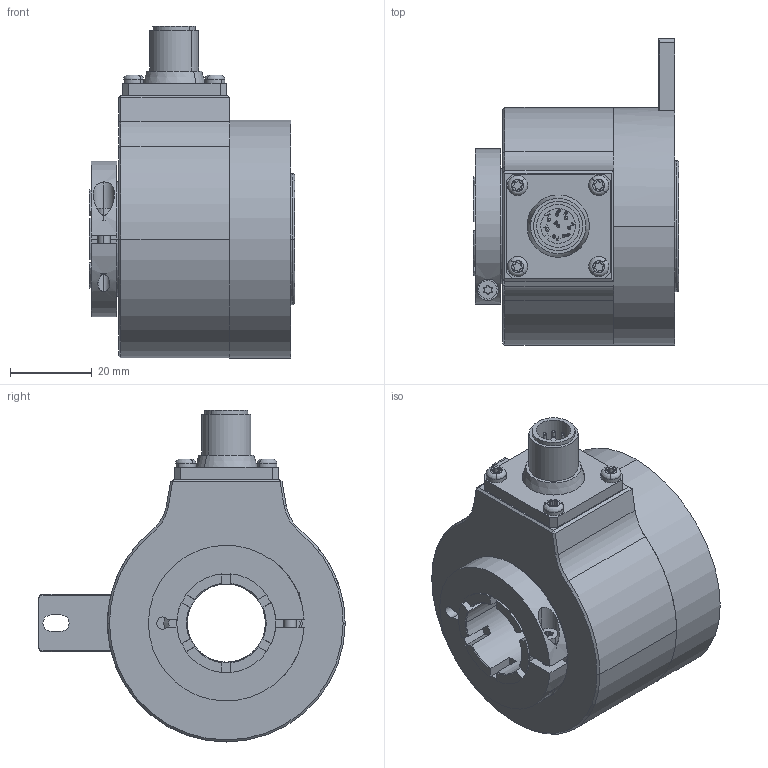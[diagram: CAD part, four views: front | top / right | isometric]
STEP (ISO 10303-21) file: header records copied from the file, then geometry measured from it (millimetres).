
FILE_DESCRIPTION (( 'STEP AP203' ), '1' );
FILE_NAME ('K58I.OXX.XXXXX.XC1755A.XXRC5.step', '2025-12-03T08:06:17', ( '' ), ( '' ), 'SwSTEP 2.0', 'SolidWorks 2021', '' );
FILE_SCHEMA (( 'CONFIG_CONTROL_DESIGN' ));
Length unit declared in the file: millimetre
Products named in the file (1): K58I.OXX.XXXXX.XC1755A.XXRC5
Bounding box: 50.1 x 74.75 x 81 mm (x, y, z)
Volume: 114496.2 mm3; surface area: 39615.1 mm2
Topology: 7 solids, 7 shells, 513 faces, 1340 edges, 859 vertices
Faces by surface type: cylinder 193, plane 186, bspline 70, cone 46, sphere 16, torus 2
Entity records: 19767 total; most frequent: CARTESIAN_POINT 7459, ORIENTED_EDGE 2592, DIRECTION 2462, EDGE_CURVE 1296, AXIS2_PLACEMENT_3D 894, VERTEX_POINT 843, VECTOR 674, LINE 674
